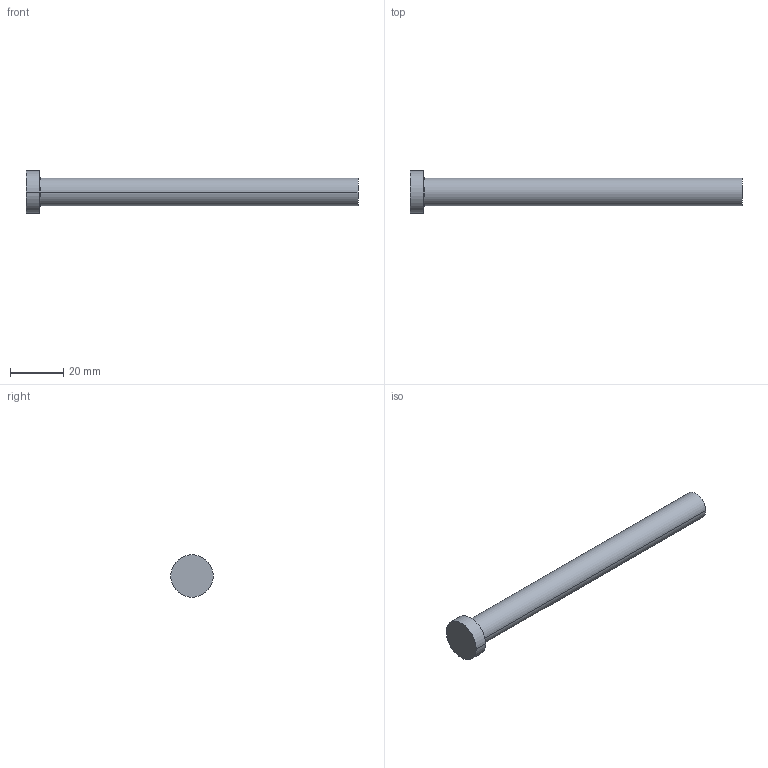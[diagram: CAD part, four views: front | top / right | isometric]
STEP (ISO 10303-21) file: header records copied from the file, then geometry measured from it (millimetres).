
FILE_DESCRIPTION (( 'STEP AP214' ), '1' );
FILE_NAME ('A-10,5x125.STEP', '2020-05-29T16:00:17', ( 'August' ), ( '' ), 'SwSTEP 2.0', 'SolidWorks 2018', '' );
FILE_SCHEMA (( 'AUTOMOTIVE_DESIGN' ));
Length unit declared in the file: millimetre
Products named in the file (1): A-10,5x125
Bounding box: 125 x 16 x 16 mm (x, y, z)
Volume: 11397.9 mm3; surface area: 4604.9 mm2
Topology: 1 solids, 1 shells, 9 faces, 16 edges, 10 vertices
Faces by surface type: cylinder 4, plane 3, torus 2
Entity records: 260 total; most frequent: DIRECTION 48, CARTESIAN_POINT 36, ORIENTED_EDGE 32, AXIS2_PLACEMENT_3D 22, EDGE_CURVE 16, CIRCLE 12, VERTEX_POINT 10, EDGE_LOOP 10
